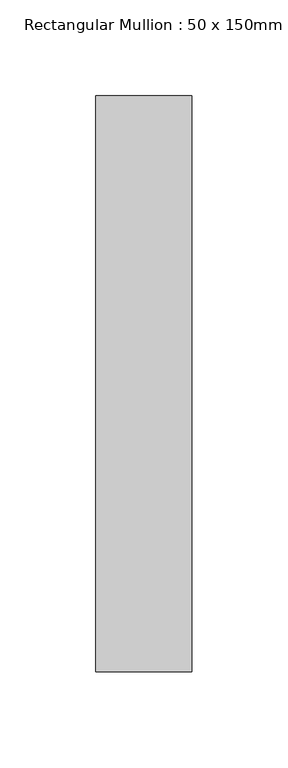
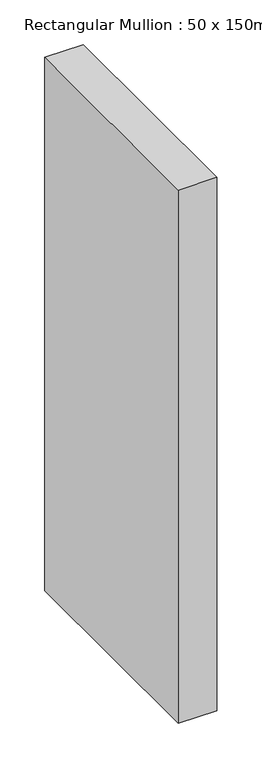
"""IFC4 building model written with IfcOpenShell, lengths in millimetres: member geometry, Rectangular Mullion : 50 x 150mm."""

from ifc_helpers import new_model, si_unit, frame, origin, place, context, project, spatial, polyline, outline, extrude, source, transform, mapped, element, save


def rectangular_mullion_50_x_150mm_88eebec3(model_context):
    return source(origin(), model_context, "Body", "SweptSolid", [
        extrude(outline(polyline([(0.0, 175.0), (0.0, -125.0), (-50.0, -125.0), (-50.0, 175.0), (0.0, 175.0)])), frame((0.0, 0.0, -730.0), z_axis=(0.0, 0.0, 1.0), x_axis=(1.0, 0.0, 0.0)), (0.0, 0.0, 1.0), 730.0),
    ])


if __name__ == "__main__":
    model = new_model("IFC4")
    model_context = context("Model", 3, world=origin())
    ifc_project = project(units=[si_unit("LENGTHUNIT", "METRE", prefix="MILLI")], contexts=[model_context])
    site = spatial("IfcSite", under=ifc_project)
    building = spatial("IfcBuilding", under=site)
    placement = place(None, origin())
    rectangular_mullion_50_x_150mm_shape = rectangular_mullion_50_x_150mm_88eebec3(model_context)
    element("IfcMember", 1, ObjectType="Rectangular Mullion : 50 x 150mm", at=placement, inside=building, context=model_context, shape_type="MappedRepresentation", body=[
        mapped(rectangular_mullion_50_x_150mm_shape, transform((0.0, 0.0, 0.0), x_axis=(1.0, 0.0, 0.0), y_axis=(0.0, 1.0, 0.0), z_axis=(0.0, 0.0, 1.0))),
    ])
    save(model, "model.ifc")
